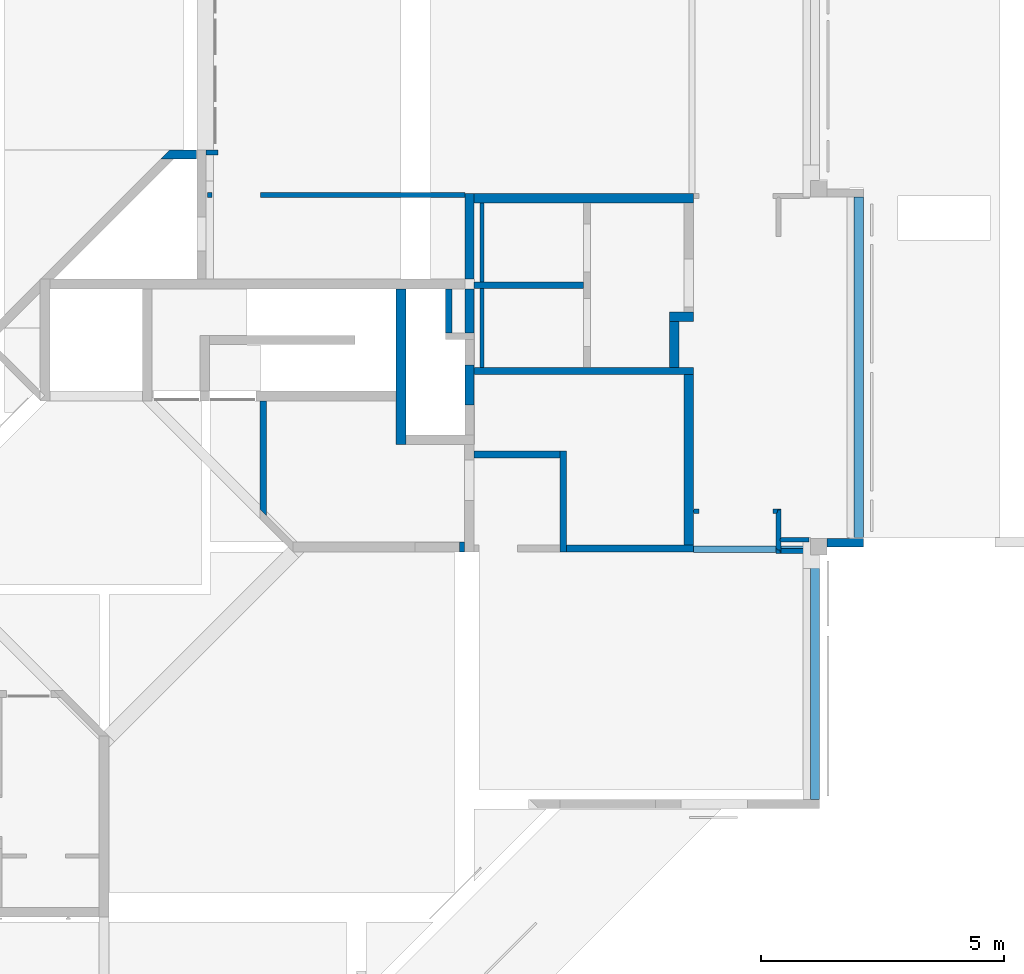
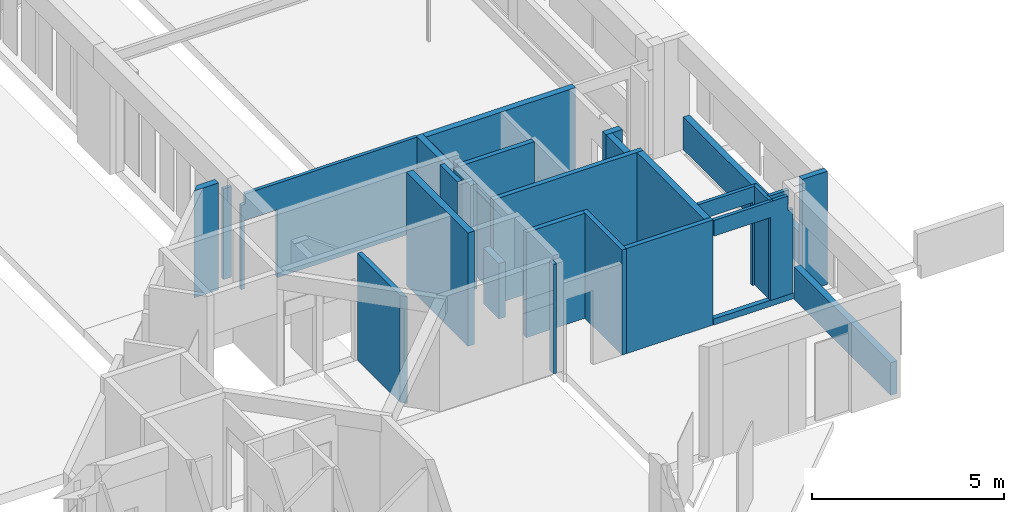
# One storey, part 17 of 30: 29 walls.
"""IFC4X3_ADD2 building model written with IfcOpenShell, lengths in millimetres."""

from ifc_helpers import new_model, si_unit, direction, frame, frame_2d, origin_with_axes, origin_2d_with_axis, place, context, subcontext, project, spatial, polyline, rectangle, outline, extrude, source, transform, mapped, material, type_object, type_shapes, element, save


model = new_model("IFC4X3_ADD2")

# Units and contexts
model_context = context("Model", 3, precision=1e-05, world=origin_with_axes(), true_north=direction((0.0, 1.0)))
body_context = subcontext(model_context, "Body", "Model", "MODEL_VIEW")
ifc_project = project(units=[si_unit("LENGTHUNIT", "METRE", prefix="MILLI"), si_unit("AREAUNIT", "SQUARE_METRE"), si_unit("VOLUMEUNIT", "CUBIC_METRE"), si_unit("PLANEANGLEUNIT", "RADIAN"), si_unit("TIMEUNIT", "SECOND"), si_unit("MASSUNIT", "GRAM")], contexts=[model_context])

# Site, building, storey
site_placement = place(None, origin_with_axes())
site = spatial("IfcSite", under=ifc_project, at=site_placement, Name="Site", CompositionType="ELEMENT")
building_placement = place(site_placement, origin_with_axes())
building = spatial("IfcBuilding", under=site, at=building_placement, Name="IFC Building Story")
storey_placement = place(building_placement, origin_with_axes())
storey = spatial("IfcBuildingStorey", under=building, at=storey_placement, Name="000", Elevation=0.0)

# Walls
ifc_material_1 = material(Name="BB_Beton_Bestaand")
wall_type_1 = type_object("IfcWallType", Name="BB_Beton_Bestaand 200", PredefinedType="NOTDEFINED", material=ifc_material_1)
wall_1_placement = place(storey_placement, origin_with_axes())
element("IfcWall", 1, at=wall_1_placement, inside=storey, type_object=wall_type_1, Name="Basic Wall:BB_XX_Wand uit beton, 200 mm", ObjectType="Basic Wall:BB_XX_Wand uit beton, 200 mm", PredefinedType="SOLIDWALL", context=body_context, shape_type="SweptSolid", body=[
    extrude(rectangle(XDim=3199.999999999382, YDim=200.0, at=frame_2d((0.0, 0.0), x_axis=(0.0, 1.0))), frame((-8500.0, 18300.00000000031, -80.0), z_axis=(0.0, 0.0, 1.0), x_axis=(1.0, 0.0, 0.0)), (0.0, 0.0, 1.0), 3600.0),
])
wall_type_2 = type_object("IfcWallType", Name="BB_Beton_Bestaand 190", PredefinedType="NOTDEFINED", material=ifc_material_1)
wall_2_placement = place(storey_placement, origin_with_axes())
element("IfcWall", 2, at=wall_2_placement, inside=storey, type_object=wall_type_2, Name="Basic Wall:BB_XX_Wand uit beton, 190 mm", ObjectType="Basic Wall:BB_XX_Wand uit beton, 190 mm", PredefinedType="SOLIDWALL", context=body_context, shape_type="SweptSolid", body=[
    extrude(rectangle(XDim=6990.000000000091, YDim=190.0, at=frame_2d((0.0, 0.0), x_axis=(0.0, 1.0))), frame((900.0, 18289.99999999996, -200.0), z_axis=(0.0, 0.0, 1.0), x_axis=(1.0, 0.0, 0.0)), (0.0, 0.0, 1.0), 1040.0),
])
wall_3_placement = place(storey_placement, origin_with_axes())
element("IfcWall", 3, at=wall_3_placement, inside=storey, type_object=wall_type_2, Name="Basic Wall:BB_XX_Wand uit beton, 190 mm", ObjectType="Basic Wall:BB_XX_Wand uit beton, 190 mm", PredefinedType="SOLIDWALL", context=body_context, shape_type="SweptSolid", body=[
    extrude(rectangle(XDim=5040.00000000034, YDim=190.0, at=frame_2d((0.0, 0.0), x_axis=(0.0, 1.0))), frame((0.0, 11934.99999999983, -200.0), z_axis=(0.0, 0.0, 1.0), x_axis=(1.0, 0.0, 0.0)), (0.0, 0.0, 1.0), 1040.0),
])
wall_type_3 = type_object("IfcWallType", Name="BB_Beton_Bestaand 170", PredefinedType="NOTDEFINED", material=ifc_material_1)
wall_4_placement = place(storey_placement, origin_with_axes())
element("IfcWall", 4, at=wall_4_placement, inside=storey, type_object=wall_type_3, Name="Basic Wall:BB_XX_Wand uit beton, 170 mm", ObjectType="Basic Wall:BB_XX_Wand uit beton, 170 mm", PredefinedType="SOLIDWALL", context=body_context, shape_type="SweptSolid", body=[
    extrude(rectangle(XDim=749.999999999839, YDim=170.0, at=origin_2d_with_axis()), frame((620.0000000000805, 14690.0, -200.0), z_axis=(0.0, 0.0, 1.0), x_axis=(1.0, 0.0, 0.0)), (0.0, 0.0, 1.0), 3600.0),
])
ifc_material_2 = material(Name="BB_Metselwerk_Bestaand")
wall_type_4 = type_object("IfcWallType", Name="BB_Metselwerk_Bestaand 140", PredefinedType="NOTDEFINED", material=ifc_material_2)
wall_5_placement = place(storey_placement, origin_with_axes())
element("IfcWall", 5, at=wall_5_placement, inside=storey, type_object=wall_type_4, Name="Basic Wall:BB_XX_Wand uit metselwerk, 140 mm", ObjectType="Basic Wall:BB_XX_Wand uit metselwerk, 140 mm", PredefinedType="SOLIDWALL", context=body_context, shape_type="SweptSolid", body=[
    extrude(rectangle(XDim=899.9999999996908, YDim=140.0, at=frame_2d((0.0, 0.0), x_axis=(0.0, 1.0))), frame((-7520.0, 19449.99999999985, -200.0), z_axis=(0.0, 0.0, 1.0), x_axis=(1.0, 0.0, 0.0)), (0.0, 0.0, 1.0), 3600.0),
])
wall_6_placement = place(storey_placement, origin_with_axes())
element("IfcWall", 6, at=wall_6_placement, inside=storey, type_object=wall_type_4, Name="Basic Wall:BB_XX_Wand uit metselwerk, 140 mm", ObjectType="Basic Wall:BB_XX_Wand uit metselwerk, 140 mm", PredefinedType="SOLIDWALL", context=body_context, shape_type="SweptSolid", body=[
    extrude(outline(polyline([(70.00000000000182, 1144.00757595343), (70.00000000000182, -1214.00757595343), (-70.0, -1074.00757595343), (-70.0, 1144.00757595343), (70.00000000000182, 1144.00757595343)])), frame((-11330.0, 16455.99242404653, -80.0), z_axis=(0.0, 0.0, 1.0), x_axis=(1.0, 0.0, 0.0)), (0.0, 0.0, 1.0), 3400.0),
])
wall_7_placement = place(storey_placement, origin_with_axes())
element("IfcWall", 7, at=wall_7_placement, inside=storey, type_object=wall_type_4, Name="Basic Wall:BB_XX_Wand uit metselwerk, 140 mm", ObjectType="Basic Wall:BB_XX_Wand uit metselwerk, 140 mm", PredefinedType="SOLIDWALL", context=body_context, shape_type="SweptSolid", body=[
    extrude(rectangle(XDim=2070.000000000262, YDim=140.0, at=frame_2d((0.0, 0.0), x_axis=(0.0, 1.0))), frame((-5170.0, 15535.00000000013, -200.0), z_axis=(0.0, 0.0, 1.0), x_axis=(1.0, 0.0, 0.0)), (0.0, 0.0, 1.0), 3340.0),
])
wall_8_placement = place(storey_placement, origin_with_axes())
element("IfcWall", 8, at=wall_8_placement, inside=storey, type_object=wall_type_4, Name="Basic Wall:BB_XX_Wand uit metselwerk, 140 mm", ObjectType="Basic Wall:BB_XX_Wand uit metselwerk, 140 mm", PredefinedType="SOLIDWALL", context=body_context, shape_type="SweptSolid", body=[
    extrude(rectangle(XDim=2604.99999999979, YDim=139.9999999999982, at=origin_2d_with_axis()), frame((-3797.499999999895, 14570.0, -200.0), z_axis=(0.0, 0.0, 1.0), x_axis=(1.0, 0.0, 0.0)), (0.0, 0.0, 1.0), 3340.0),
])
ifc_material_3 = material(Name="BB_Metselwerk_Betonsteen")
wall_type_5 = type_object("IfcWallType", Name="BB_Metselwerk_Betonsteen 190", PredefinedType="NOTDEFINED", material=ifc_material_3)
wall_9_placement = place(storey_placement, origin_with_axes())
element("IfcWall", 9, at=wall_9_placement, inside=storey, type_object=wall_type_5, Name="Basic Wall:BB_03.09.24#04_Wand uit metselwerk_vol, 190 mm", ObjectType="Basic Wall:BB_03.09.24#04_Wand uit metselwerk_vol, 190 mm", PredefinedType="SOLIDWALL", context=body_context, shape_type="SweptSolid", body=[
    extrude(rectangle(XDim=4505.03046328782, YDim=190.0, at=origin_2d_with_axis()), frame((-4747.51523164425, 21760.0, -200.0), z_axis=(0.0, 0.0, 1.0), x_axis=(1.0, 0.0, 0.0)), (0.0, 0.0, 1.0), 3200.0),
])
wall_10_placement = place(storey_placement, origin_with_axes())
element("IfcWall", 10, at=wall_10_placement, inside=storey, type_object=wall_type_5, Name="Basic Wall:BB_03.09.24#05_Wand uit metselwerk_EI60, 190 mm", ObjectType="Basic Wall:BB_03.09.24#05_Wand uit metselwerk_EI60, 190 mm", PredefinedType="SOLIDWALL", context=body_context, shape_type="SweptSolid", body=[
    extrude(rectangle(XDim=820.0000000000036, YDim=190.0, at=frame_2d((0.0, 0.0), x_axis=(0.0, 1.0))), frame((-7095.03046328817, 17929.7208049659, -200.0), z_axis=(0.0, 0.0, 1.0), x_axis=(1.0, 0.0, 0.0)), (0.0, 0.0, 1.0), 1760.0),
])
wall_11_placement = place(storey_placement, origin_with_axes())
element("IfcWall", 11, at=wall_11_placement, inside=storey, type_object=wall_type_5, Name="Basic Wall:BB_03.09.24#04_Wand uit metselwerk_vol, 190 mm", ObjectType="Basic Wall:BB_03.09.24#04_Wand uit metselwerk_vol, 190 mm", PredefinedType="SOLIDWALL", context=body_context, shape_type="SweptSolid", body=[
    extrude(rectangle(XDim=1755.000000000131, YDim=190.0, at=frame_2d((0.0, 0.0), x_axis=(0.0, 1.0))), frame((-7095.03046328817, 20977.50000000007, -200.0), z_axis=(0.0, 0.0, 1.0), x_axis=(1.0, 0.0, 0.0)), (0.0, 0.0, 1.0), 3200.0),
])
wall_12_placement = place(storey_placement, origin_with_axes())
element("IfcWall", 12, at=wall_12_placement, inside=storey, type_object=wall_type_5, Name="Basic Wall:BB_03.09.24#03_Wand uit metselwerk, 190 mm", ObjectType="Basic Wall:BB_03.09.24#03_Wand uit metselwerk, 190 mm", PredefinedType="SOLIDWALL", context=body_context, shape_type="SweptSolid", body=[
    extrude(rectangle(XDim=899.7208049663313, YDim=190.0, at=frame_2d((0.0, 0.0), x_axis=(0.0, 1.0))), frame((-7095.03046328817, 19449.86040248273, -200.0), z_axis=(0.0, 0.0, 1.0), x_axis=(1.0, 0.0, 0.0)), (0.0, 0.0, 1.0), 3340.0),
])
wall_13_placement = place(storey_placement, origin_with_axes())
element("IfcWall", 13, at=wall_13_placement, inside=storey, type_object=wall_type_5, Name="Basic Wall:BB_03.09.24#05_Wand uit metselwerk_EI60, 190 mm", ObjectType="Basic Wall:BB_03.09.24#05_Wand uit metselwerk_EI60, 190 mm", PredefinedType="SOLIDWALL", context=body_context, shape_type="SweptSolid", body=[
    extrude(rectangle(XDim=949.9999999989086, YDim=190.0, at=frame_2d((0.0, 0.0), x_axis=(0.0, 1.0))), frame((-2890.0, 18759.99999999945, -200.0), z_axis=(0.0, 0.0, 1.0), x_axis=(1.0, 0.0, 0.0)), (0.0, 0.0, 1.0), 3340.0),
])
wall_14_placement = place(storey_placement, origin_with_axes())
element("IfcWall", 14, at=wall_14_placement, inside=storey, type_object=wall_type_5, Name="Basic Wall:BB_03.09.24#05_Wand uit metselwerk_EI60, 190 mm", ObjectType="Basic Wall:BB_03.09.24#05_Wand uit metselwerk_EI60, 190 mm", PredefinedType="SOLIDWALL", context=body_context, shape_type="SweptSolid", body=[
    extrude(rectangle(XDim=490.0, YDim=190.0, at=origin_2d_with_axis()), frame((-2740.0, 19330.0, -200.0), z_axis=(0.0, 0.0, 1.0), x_axis=(1.0, 0.0, 0.0)), (0.0, 0.0, 1.0), 3340.0),
])
wall_15_placement = place(storey_placement, origin_with_axes())
element("IfcWall", 15, at=wall_15_placement, inside=storey, type_object=wall_type_5, Name="Basic Wall:BB_03.09.24#05_Wand uit metselwerk_EI60, 190 mm", ObjectType="Basic Wall:BB_03.09.24#05_Wand uit metselwerk_EI60, 190 mm", PredefinedType="SOLIDWALL", context=body_context, shape_type="SweptSolid", body=[
    extrude(rectangle(XDim=3505.000000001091, YDim=190.0, at=frame_2d((0.0, 0.0), x_axis=(0.0, 1.0))), frame((-2590.0, 16392.49999999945, -200.0), z_axis=(0.0, 0.0, 1.0), x_axis=(1.0, 0.0, 0.0)), (0.0, 0.0, 1.0), 3340.0),
])
wall_16_placement = place(storey_placement, origin_with_axes())
element("IfcWall", 16, at=wall_16_placement, inside=storey, type_object=wall_type_5, Name="Basic Wall:BB_03.09.24#03_Wand uit metselwerk, 190 mm", ObjectType="Basic Wall:BB_03.09.24#03_Wand uit metselwerk, 190 mm", PredefinedType="SOLIDWALL", context=body_context, shape_type="SweptSolid", body=[
    extrude(outline(polyline([(-225.2361964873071, 95.0), (320.2361964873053, 95.0), (320.2361964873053, -95.0), (-415.2361964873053, -95.0), (-225.2361964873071, 95.0)])), frame((-13024.41214099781, 22660.0, -400.0), z_axis=(0.0, 0.0, 1.0), x_axis=(1.0, 0.0, 0.0)), (0.0, 0.0, 1.0), 3399.99999997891),
])
wall_type_6 = type_object("IfcWallType", Name="Basic Wall_BB_10.01.41#03_Gipskartonwand_43dB_MS100 _ 25.50.25_ 100 mm15", PredefinedType="NOTDEFINED")
shared_shape_1 = source(origin_with_axes(), body_context, "Body", "SweptSolid", [
    extrude(rectangle(XDim=240.000000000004, YDim=12.49999999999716, at=origin_2d_with_axis()), frame((119.999999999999, -43.7499999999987, 0.0), z_axis=(0.0, 0.0, 1.0), x_axis=(1.0, 0.0, 0.0)), (0.0, 0.0, 1.0), 2880.0),
    extrude(rectangle(XDim=240.000000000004, YDim=12.50000000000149, at=origin_2d_with_axis()), frame((120.0, -31.24999999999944, 0.0), z_axis=(0.0, 0.0, 1.0), x_axis=(1.0, 0.0, 0.0)), (0.0, 0.0, 1.0), 2880.0),
    extrude(rectangle(XDim=240.000000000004, YDim=49.9999999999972, at=origin_2d_with_axis()), frame((119.999999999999, 0.0, 0.0), z_axis=(0.0, 0.0, 1.0), x_axis=(1.0, 0.0, 0.0)), (0.0, 0.0, 1.0), 2880.0),
    extrude(rectangle(XDim=240.000000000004, YDim=12.50000000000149, at=origin_2d_with_axis()), frame((120.0, 31.24999999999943, 0.0), z_axis=(0.0, 0.0, 1.0), x_axis=(1.0, 0.0, 0.0)), (0.0, 0.0, 1.0), 2880.0),
    extrude(rectangle(XDim=240.000000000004, YDim=12.50000000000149, at=origin_2d_with_axis()), frame((120.0, 43.75000000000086, 0.0), z_axis=(0.0, 0.0, 1.0), x_axis=(1.0, 0.0, 0.0)), (0.0, 0.0, 1.0), 2880.0),
])
type_shapes(wall_type_6, [shared_shape_1])
wall_17_placement = place(storey_placement, frame((-12265.0040658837, 22705.0, -200.0), z_axis=(0.0, 0.0, 1.0), x_axis=(-1.0, 0.0, 0.0)))
element("IfcWall", 17, at=wall_17_placement, inside=storey, type_object=wall_type_6, Name="Basic Wall:BB_10.01.41#03_Gipskartonwand_43dB_MS100 / 25.50.25, 100 mm", ObjectType="Basic Wall:BB_10.01.41#03_Gipskartonwand_43dB_MS100 / 25.50.25, 100 mm", PredefinedType="PARTITIONING", context=body_context, shape_type="MappedRepresentation", body=[
    mapped(shared_shape_1, transform((0.0, 0.0, 0.0))),
])
wall_type_7 = type_object("IfcWallType", Name="Basic Wall_BB_10.01.41#01_Gipskartonwand_MS100 _ 25.50.25_ 100 mm11", PredefinedType="NOTDEFINED")
shared_shape_2 = source(origin_with_axes(), body_context, "Body", "SweptSolid", [
    extrude(outline(polyline([(-1195.991467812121, -1112.0), (-1320.995533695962, -1112.0), (-1320.995533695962, 1568.0), (-1220.995533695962, 1568.0), (-1220.995533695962, -592.0000000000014), (-230.9955336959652, -592.0000000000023), (-230.9955336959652, 1568.0), (3968.978068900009, 1568.0), (3968.978068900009, -1432.0), (-1195.991467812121, -1432.0), (-1195.991467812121, -1112.0)])), frame((1320.995533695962, 37.50000000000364, 1568.0), z_axis=(0.0, 1.0, 0.0), x_axis=(1.0, 0.0, 0.0)), (0.0, 0.0, 1.0), 12.5),
    extrude(outline(polyline([(-1195.991467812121, -1112.0), (-1320.995533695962, -1112.0), (-1320.995533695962, 1568.0), (-1220.995533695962, 1568.0), (-1220.995533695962, -592.0000000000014), (-230.9955336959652, -592.0000000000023), (-230.9955336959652, 1568.0), (3968.978068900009, 1568.0), (3968.978068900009, -1432.0), (-1195.991467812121, -1432.0), (-1195.991467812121, -1112.0)])), frame((1320.995533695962, 25.0, 1568.0), z_axis=(0.0, 1.0, 0.0), x_axis=(1.0, 0.0, 0.0)), (0.0, 0.0, 1.0), 12.5),
    extrude(outline(polyline([(-1195.991467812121, -1112.0), (-1320.995533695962, -1112.0), (-1320.995533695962, 1568.0), (-1220.995533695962, 1568.0), (-1220.995533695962, -592.0000000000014), (-230.9955336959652, -592.0000000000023), (-230.9955336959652, 1568.0), (3968.978068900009, 1568.0), (3968.978068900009, -1432.0), (-1195.991467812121, -1432.0), (-1195.991467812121, -1112.0)])), frame((1320.995533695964, -25.0, 1568.0), z_axis=(0.0, 1.0, 0.0), x_axis=(1.0, 0.0, 0.0)), (0.0, 0.0, 1.0), 49.99999999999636),
    extrude(outline(polyline([(-1195.991467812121, -1112.0), (-1320.995533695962, -1112.0), (-1320.995533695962, 1568.0), (-1220.995533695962, 1568.0), (-1220.995533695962, -592.0000000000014), (-230.9955336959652, -592.0000000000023), (-230.9955336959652, 1568.0), (3968.978068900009, 1568.0), (3968.978068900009, -1432.0), (-1195.991467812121, -1432.0), (-1195.991467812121, -1112.0)])), frame((1320.995533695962, -37.49999999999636, 1568.0), z_axis=(0.0, 1.0, 0.0), x_axis=(1.0, 0.0, 0.0)), (0.0, 0.0, 1.0), 12.5),
    extrude(outline(polyline([(3968.978068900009, -1432.0), (-1195.991467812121, -1432.0), (-1195.991467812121, -1112.0), (-1320.995533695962, -1112.0), (-1320.995533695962, 1568.0), (-1220.995533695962, 1568.0), (-1220.995533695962, -592.0000000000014), (-230.9955336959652, -592.0000000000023), (-230.9955336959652, 1568.0), (3968.978068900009, 1568.0), (3968.978068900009, -1432.0)])), frame((1320.995533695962, -50.0, 1568.0), z_axis=(0.0, 1.0, 0.0), x_axis=(1.0, 0.0, 0.0)), (0.0, 0.0, 1.0), 12.49999999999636),
])
type_shapes(wall_type_7, [shared_shape_2])
wall_18_placement = place(storey_placement, frame((-12480.0040658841, 21830.0, 0.0), z_axis=(0.0, 0.0, 1.0), x_axis=(1.0, 0.0, 0.0)))
element("IfcWall", 18, at=wall_18_placement, inside=storey, type_object=wall_type_7, Name="Basic Wall:BB_10.01.41#01_Gipskartonwand_MS100 / 25.50.25, 100 mm", ObjectType="Basic Wall:BB_10.01.41#01_Gipskartonwand_MS100 / 25.50.25, 100 mm", PredefinedType="PARTITIONING", context=body_context, shape_type="MappedRepresentation", body=[
    mapped(shared_shape_2, transform((0.0, 0.0, 0.0))),
])
wall_type_8 = type_object("IfcWallType", Name="Basic Wall_BB_10.01.41#21_Gipskartonwand_EI60_43dB_MS100 _ 25.50.25_ 100 mm5", PredefinedType="NOTDEFINED")
shared_shape_3 = source(origin_with_axes(), body_context, "Body", "SweptSolid", [
    extrude(outline(polyline([(123.1250000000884, -525.0), (123.1250000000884, 2115.0), (800.6250000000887, 2115.0), (800.6250000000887, -564.9999999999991), (650.6250000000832, -564.9999999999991), (650.6250000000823, -1025.0), (-1574.375000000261, -1025.0), (-1574.375000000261, -525.0), (123.1250000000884, -525.0)])), frame((1574.375000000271, 37.5, 2115.0), z_axis=(0.0, 1.0, 0.0), x_axis=(1.0, 0.0, 0.0)), (0.0, 0.0, 1.0), 12.5),
    extrude(outline(polyline([(123.1250000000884, -525.0), (123.1250000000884, 2115.0), (800.6250000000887, 2115.0), (800.6250000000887, -564.9999999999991), (650.6250000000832, -564.9999999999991), (650.6250000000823, -1025.0), (-1574.375000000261, -1025.0), (-1574.375000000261, -525.0), (123.1250000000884, -525.0)])), frame((1574.37500000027, 25.0, 2115.0), z_axis=(0.0, 1.0, 0.0), x_axis=(1.0, 0.0, 0.0)), (0.0, 0.0, 1.0), 12.5),
    extrude(outline(polyline([(123.1250000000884, -525.0), (123.1250000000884, 2115.0), (800.6250000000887, 2115.0), (800.6250000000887, -564.9999999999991), (650.6250000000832, -564.9999999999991), (650.6250000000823, -1025.0), (-1574.375000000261, -1025.0), (-1574.375000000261, -525.0), (123.1250000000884, -525.0)])), frame((1574.375000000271, -25.0, 2115.0), z_axis=(0.0, 1.0, 0.0), x_axis=(1.0, 0.0, 0.0)), (0.0, 0.0, 1.0), 50.00000000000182),
    extrude(outline(polyline([(123.1250000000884, -525.0), (123.1250000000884, 2115.0), (800.6250000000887, 2115.0), (800.6250000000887, -564.9999999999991), (650.6250000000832, -564.9999999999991), (650.6250000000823, -1025.0), (-1574.375000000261, -1025.0), (-1574.375000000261, -525.0), (123.1250000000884, -525.0)])), frame((1574.375000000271, -37.5, 2115.0), z_axis=(0.0, 1.0, 0.0), x_axis=(1.0, 0.0, 0.0)), (0.0, 0.0, 1.0), 12.5),
    extrude(outline(polyline([(123.1250000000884, -525.0), (123.1250000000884, 2115.0), (800.6250000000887, 2115.0), (800.6250000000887, -564.9999999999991), (650.6250000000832, -564.9999999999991), (650.6250000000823, -1025.0), (-1574.375000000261, -1025.0), (-1574.375000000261, -525.0), (123.1250000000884, -525.0)])), frame((1574.375000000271, -50.0, 2115.0), z_axis=(0.0, 1.0, 0.0), x_axis=(1.0, 0.0, 0.0)), (0.0, 0.0, 1.0), 12.5),
])
type_shapes(wall_type_8, [shared_shape_3])
wall_19_placement = place(storey_placement, frame((-2495.0, 14515.0, 0.0), z_axis=(0.0, 0.0, 1.0), x_axis=(1.0, 0.0, 0.0)))
element("IfcWall", 19, at=wall_19_placement, inside=storey, type_object=wall_type_8, Name="Basic Wall:BB_10.01.41#21_Gipskartonwand_EI60_43dB_MS100 / 25.50.25, 100 mm", ObjectType="Basic Wall:BB_10.01.41#21_Gipskartonwand_EI60_43dB_MS100 / 25.50.25, 100 mm", PredefinedType="PARTITIONING", context=body_context, shape_type="MappedRepresentation", body=[
    mapped(shared_shape_3, transform((0.0, 0.0, 0.0))),
])
wall_type_9 = type_object("IfcWallType", Name="Basic Wall_BB_10.01.41#21_Gipskartonwand_EI60_43dB_MS100 _ 25.50.25_ 100 mm7", PredefinedType="NOTDEFINED")
shared_shape_4 = source(origin_with_axes(), body_context, "Body", "SweptSolid", [
    extrude(rectangle(XDim=732.5000000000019, YDim=12.49999999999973, at=origin_2d_with_axis()), frame((366.249999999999, 43.75000000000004, 0.0), z_axis=(0.0, 0.0, 1.0), x_axis=(1.0, 0.0, 0.0)), (0.0, 0.0, 1.0), 3140.0),
    extrude(rectangle(XDim=757.5000000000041, YDim=12.49999999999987, at=origin_2d_with_axis()), frame((366.250000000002, 31.25000000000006, 0.0), z_axis=(0.0, 0.0, 1.0), x_axis=(1.0, 0.0, 0.0)), (0.0, 0.0, 1.0), 3140.0),
    extrude(rectangle(XDim=820.0000000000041, YDim=50.0, at=origin_2d_with_axis()), frame((385.0, 0.0, 0.0), z_axis=(0.0, 0.0, 1.0), x_axis=(1.0, 0.0, 0.0)), (0.0, 0.0, 1.0), 3140.0),
    extrude(rectangle(XDim=882.500000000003, YDim=12.50000000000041, at=origin_2d_with_axis()), frame((366.2500000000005, -31.25000000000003, 0.0), z_axis=(0.0, 0.0, 1.0), x_axis=(1.0, 0.0, 0.0)), (0.0, 0.0, 1.0), 3140.0),
    extrude(rectangle(XDim=907.5000000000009, YDim=12.49999999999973, at=origin_2d_with_axis()), frame((366.2500000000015, -43.75000000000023, 0.0), z_axis=(0.0, 0.0, 1.0), x_axis=(1.0, 0.0, 0.0)), (0.0, 0.0, 1.0), 3140.0),
])
type_shapes(wall_type_9, [shared_shape_4])
wall_20_placement = place(storey_placement, frame((-747.5, 14565.0, 0.0), z_axis=(0.0, 0.0, 1.0), x_axis=(0.0, 1.0, 0.0)))
element("IfcWall", 20, at=wall_20_placement, inside=storey, type_object=wall_type_9, Name="Basic Wall:BB_10.01.41#21_Gipskartonwand_EI60_43dB_MS100 / 25.50.25, 100 mm", ObjectType="Basic Wall:BB_10.01.41#21_Gipskartonwand_EI60_43dB_MS100 / 25.50.25, 100 mm", PredefinedType="PARTITIONING", context=body_context, shape_type="MappedRepresentation", body=[
    mapped(shared_shape_4, transform((0.0, 0.0, 0.0))),
])
wall_type_10 = type_object("IfcWallType", Name="Basic Wall_BB_10.01.41#21_Gipskartonwand_EI60_43dB_MS100 _ 25.50.25_ 100 mm9", PredefinedType="NOTDEFINED")
shared_shape_5 = source(origin_with_axes(), body_context, "Body", "SweptSolid", [
    extrude(outline(polyline([(-831.8750000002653, 1445.0), (-769.3749999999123, 1445.0), (-769.3749999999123, -1195.000000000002), (750.6250000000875, -1195.000000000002), (750.6250000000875, 1445.0), (850.6250000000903, 1445.0), (850.6250000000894, -1694.999999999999), (-831.8750000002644, -1694.999999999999), (-831.8750000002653, 1445.0)])), frame((831.8750000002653, 37.50000000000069, 1445.0), z_axis=(0.0, 1.0, 0.0), x_axis=(1.0, 0.0, 0.0)), (0.0, 0.0, 1.0), 12.49999999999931),
    extrude(outline(polyline([(-841.2500000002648, 1445.0), (-766.2499999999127, 1445.0), (-766.2499999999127, -1195.000000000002), (753.7500000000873, -1195.000000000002), (753.7500000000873, 1445.0), (853.7500000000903, 1445.0), (853.7500000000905, -1694.999999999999), (-841.2500000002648, -1694.999999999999), (-841.2500000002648, 1445.0)])), frame((828.7500000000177, 25.0, 1445.0), z_axis=(0.0, 1.0, 0.0), x_axis=(1.0, 0.0, 0.0)), (0.0, 0.0, 1.0), 12.49999999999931),
    extrude(outline(polyline([(-1025.000000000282, 1691.999999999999), (-937.4999999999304, 1691.999999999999), (-937.4999999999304, -948.0000000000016), (582.5000000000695, -948.0000000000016), (582.5000000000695, 1691.999999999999), (697.5000000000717, 1691.999999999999), (697.5000000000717, -987.9999999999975), (682.5000000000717, -987.9999999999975), (682.5000000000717, -1448.0), (-1025.000000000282, -1448.0), (-1025.000000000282, 1691.999999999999)])), frame((1000.000000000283, -25.0000000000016, 1691.999999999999), z_axis=(0.0, 1.0, 0.0), x_axis=(1.0, 0.0, 0.0)), (0.0, 0.0, 1.0), 50.00000000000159),
    extrude(outline(polyline([(-888.1250000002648, 1445.0), (-750.6249999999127, 1445.0), (-750.6249999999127, -1195.000000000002), (769.3750000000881, -1195.000000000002), (769.3750000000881, 1445.0), (869.3750000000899, 1445.0), (869.375000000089, -1694.999999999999), (-888.1250000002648, -1694.999999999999), (-888.1250000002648, 1445.0)])), frame((813.1250000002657, -37.49999999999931, 1445.0), z_axis=(0.0, 1.0, 0.0), x_axis=(1.0, 0.0, 0.0)), (0.0, 0.0, 1.0), 12.49999999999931),
    extrude(outline(polyline([(-897.5000000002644, 1445.0), (-747.4999999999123, 1445.0), (-747.4999999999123, -1195.000000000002), (772.5000000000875, -1195.000000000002), (772.5000000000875, 1445.0), (872.5000000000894, 1445.0), (872.5000000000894, -1694.999999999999), (-897.5000000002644, -1694.999999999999), (-897.5000000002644, 1445.0)])), frame((810.0000000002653, -49.9999999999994, 1445.0), z_axis=(0.0, 1.0, 0.0), x_axis=(1.0, 0.0, 0.0)), (0.0, 0.0, 1.0), 12.4999999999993),
])
type_shapes(wall_type_10, [shared_shape_5])
wall_21_placement = place(storey_placement, frame((-797.499999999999, 15335.0, 0.0), z_axis=(0.0, 0.0, 1.0), x_axis=(-1.0, 0.0, 0.0)))
element("IfcWall", 21, at=wall_21_placement, inside=storey, type_object=wall_type_10, Name="Basic Wall:BB_10.01.41#21_Gipskartonwand_EI60_43dB_MS100 / 25.50.25, 100 mm", ObjectType="Basic Wall:BB_10.01.41#21_Gipskartonwand_EI60_43dB_MS100 / 25.50.25, 100 mm", PredefinedType="PARTITIONING", context=body_context, shape_type="MappedRepresentation", body=[
    mapped(shared_shape_5, transform((0.0, 0.0, 0.0))),
])
wall_type_11 = type_object("IfcWallType", Name="Basic Wall_BB_10.01.41#21_Gipskartonwand_EI60_43dB_MS100 _ 25.50.25_ 100 mm13", PredefinedType="NOTDEFINED")
shared_shape_6 = source(origin_with_axes(), body_context, "Body", "SweptSolid", [
    extrude(outline(polyline([(-188.333333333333, -739.9999999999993), (-188.333333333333, 1939.999999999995), (389.1666666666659, 1939.999999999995), (389.1666666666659, -1199.999999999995), (-200.833333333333, -1199.999999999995), (-200.833333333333, -739.9999999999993), (-188.333333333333, -739.9999999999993)])), frame((200.833333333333, 37.4999999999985, 1939.999999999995), z_axis=(0.0, 1.0, 0.0), x_axis=(1.0, 0.0, 0.0)), (0.0, 0.0, 1.0), 12.5000000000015),
    extrude(outline(polyline([(-192.5, -739.9999999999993), (-192.5, 1939.999999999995), (397.5, 1939.999999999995), (397.5, -1199.999999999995), (-205.0, -1199.999999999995), (-205.0, -739.9999999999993), (-192.5, -739.9999999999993)])), frame((205.0, 25.000000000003, 1939.999999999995), z_axis=(0.0, 1.0, 0.0), x_axis=(1.0, 0.0, 0.0)), (0.0, 0.0, 1.0), 12.4999999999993),
    extrude(outline(polyline([(-196.6666666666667, -739.9999999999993), (-196.6666666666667, 1939.999999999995), (405.8333333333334, 1939.999999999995), (405.8333333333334, -1199.999999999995), (-209.1666666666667, -1199.999999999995), (-209.1666666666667, -739.9999999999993), (-196.6666666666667, -739.9999999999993)])), frame((209.1666666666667, -25.0000000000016, 1939.999999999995), z_axis=(0.0, 1.0, 0.0), x_axis=(1.0, 0.0, 0.0)), (0.0, 0.0, 1.0), 50.00000000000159),
    extrude(outline(polyline([(-188.333333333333, -739.9999999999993), (-188.333333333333, 1939.999999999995), (389.1666666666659, 1939.999999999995), (389.1666666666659, -1199.999999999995), (-200.833333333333, -1199.999999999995), (-200.833333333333, -739.9999999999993), (-188.333333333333, -739.9999999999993)])), frame((200.8333333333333, -37.49999999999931, 1939.999999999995), z_axis=(0.0, 1.0, 0.0), x_axis=(1.0, 0.0, 0.0)), (0.0, 0.0, 1.0), 12.49999999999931),
    extrude(outline(polyline([(-188.333333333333, -739.9999999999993), (-188.333333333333, 1939.999999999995), (389.1666666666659, 1939.999999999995), (389.1666666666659, -1199.999999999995), (-200.833333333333, -1199.999999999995), (-200.833333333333, -739.9999999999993), (-188.333333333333, -739.9999999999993)])), frame((200.8333333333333, -49.9999999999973, 1939.999999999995), z_axis=(0.0, 1.0, 0.0), x_axis=(1.0, 0.0, 0.0)), (0.0, 0.0, 1.0), 12.4999999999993),
])
type_shapes(wall_type_11, [shared_shape_6])
wall_22_placement = place(storey_placement, frame((-107.5, 14750.0, 0.0), z_axis=(0.0, 0.0, 1.0), x_axis=(-1.0, 0.0, 0.0)))
element("IfcWall", 22, at=wall_22_placement, inside=storey, type_object=wall_type_11, Name="Basic Wall:BB_10.01.41#21_Gipskartonwand_EI60_43dB_MS100 / 25.50.25, 100 mm", ObjectType="Basic Wall:BB_10.01.41#21_Gipskartonwand_EI60_43dB_MS100 / 25.50.25, 100 mm", PredefinedType="PARTITIONING", context=body_context, shape_type="MappedRepresentation", body=[
    mapped(shared_shape_6, transform((0.0, 0.0, 0.0))),
])
wall_type_12 = type_object("IfcWallType", Name="Basic Wall_BB_10.01.62#02_Voorzetwand gipskarton_ sanitair_MS75 _ 50.25_ 75 mm9", PredefinedType="NOTDEFINED")
shared_shape_7 = source(origin_with_axes(), body_context, "Body", "SweptSolid", [
    extrude(rectangle(XDim=1620.000000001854, YDim=12.50000000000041, at=origin_2d_with_axis()), frame((809.999999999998, 31.25000000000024, 0.0), z_axis=(0.0, 0.0, 1.0), x_axis=(1.0, 0.0, 0.0)), (0.0, 0.0, 1.0), 2750.0),
    extrude(rectangle(XDim=1620.000000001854, YDim=12.49999999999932, at=origin_2d_with_axis()), frame((809.999999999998, 18.7500000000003, 0.0), z_axis=(0.0, 0.0, 1.0), x_axis=(1.0, 0.0, 0.0)), (0.0, 0.0, 1.0), 2750.0),
    extrude(rectangle(XDim=1620.000000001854, YDim=50.0, at=origin_2d_with_axis()), frame((809.999999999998, -12.49999999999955, 0.0), z_axis=(0.0, 0.0, 1.0), x_axis=(1.0, 0.0, 0.0)), (0.0, 0.0, 1.0), 2750.0),
])
type_shapes(wall_type_12, [shared_shape_7])
wall_23_placement = place(storey_placement, frame((-6837.53046328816, 21665.0, -10.0), z_axis=(0.0, 0.0, 1.0), x_axis=(0.0, -1.0, 0.0)))
element("IfcWall", 23, at=wall_23_placement, inside=storey, type_object=wall_type_12, Name="Basic Wall:BB_10.01.62#02_Voorzetwand gipskarton, sanitair_MS75 / 50.25, 75 mm", ObjectType="Basic Wall:BB_10.01.62#02_Voorzetwand gipskarton, sanitair_MS75 / 50.25, 75 mm", PredefinedType="PARTITIONING", context=body_context, shape_type="MappedRepresentation", body=[
    mapped(shared_shape_7, transform((0.0, 0.0, 0.0))),
])
wall_type_13 = type_object("IfcWallType", Name="Basic Wall_BB_10.01.62#02_Voorzetwand gipskarton_ sanitair_MS75 _ 50.25_ 75 mm11", PredefinedType="NOTDEFINED")
shared_shape_8 = source(origin_with_axes(), body_context, "Body", "SweptSolid", [
    extrude(rectangle(XDim=1620.000000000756, YDim=12.50000000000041, at=origin_2d_with_axis()), frame((809.999999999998, 31.25000000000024, 0.0), z_axis=(0.0, 0.0, 1.0), x_axis=(1.0, 0.0, 0.0)), (0.0, 0.0, 1.0), 2750.0),
    extrude(rectangle(XDim=1620.000000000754, YDim=12.49999999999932, at=origin_2d_with_axis()), frame((809.999999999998, 18.7500000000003, 0.0), z_axis=(0.0, 0.0, 1.0), x_axis=(1.0, 0.0, 0.0)), (0.0, 0.0, 1.0), 2750.0),
    extrude(rectangle(XDim=1620.000000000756, YDim=50.0, at=origin_2d_with_axis()), frame((809.999999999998, -12.49999999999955, 0.0), z_axis=(0.0, 0.0, 1.0), x_axis=(1.0, 0.0, 0.0)), (0.0, 0.0, 1.0), 2750.0),
])
type_shapes(wall_type_13, [shared_shape_8])
wall_24_placement = place(storey_placement, frame((-6837.53046328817, 19905.0, -10.0), z_axis=(0.0, 0.0, 1.0), x_axis=(0.0, -1.0, 0.0)))
element("IfcWall", 24, at=wall_24_placement, inside=storey, type_object=wall_type_13, Name="Basic Wall:BB_10.01.62#02_Voorzetwand gipskarton, sanitair_MS75 / 50.25, 75 mm", ObjectType="Basic Wall:BB_10.01.62#02_Voorzetwand gipskarton, sanitair_MS75 / 50.25, 75 mm", PredefinedType="PARTITIONING", context=body_context, shape_type="MappedRepresentation", body=[
    mapped(shared_shape_8, transform((0.0, 0.0, 0.0))),
])
wall_type_14 = type_object("IfcWallType", Name="BB_Metselwerk_Betonsteen 140", PredefinedType="NOTDEFINED", material=ifc_material_3)
wall_25_placement = place(storey_placement, origin_with_axes())
element("IfcWall", 25, at=wall_25_placement, inside=storey, type_object=wall_type_14, Name="Basic Wall:BB_03.09.24#01_Wand uit metselwerk, 140 mm", ObjectType="Basic Wall:BB_03.09.24#01_Wand uit metselwerk, 140 mm", PredefinedType="SOLIDWALL", context=body_context, shape_type="SweptSolid", body=[
    extrude(rectangle(XDim=4505.03046328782, YDim=140.0, at=origin_2d_with_axis()), frame((-4747.51523164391, 18215.0, -200.0), z_axis=(0.0, 0.0, 1.0), x_axis=(1.0, 0.0, 0.0)), (0.0, 0.0, 1.0), 3340.0),
])
wall_26_placement = place(storey_placement, origin_with_axes())
element("IfcWall", 26, at=wall_26_placement, inside=storey, type_object=wall_type_14, Name="Basic Wall:BB_03.09.24#01_Wand uit metselwerk, 140 mm", ObjectType="Basic Wall:BB_03.09.24#01_Wand uit metselwerk, 140 mm", PredefinedType="SOLIDWALL", context=body_context, shape_type="SweptSolid", body=[
    extrude(rectangle(XDim=2250.03046328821, YDim=140.0000000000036, at=origin_2d_with_axis()), frame((-5875.015231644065, 19975.0, -200.0), z_axis=(0.0, 0.0, 1.0), x_axis=(1.0, 0.0, 0.0)), (0.0, 0.0, 1.0), 3340.0),
])
wall_27_placement = place(storey_placement, origin_with_axes())
element("IfcWall", 27, at=wall_27_placement, inside=storey, type_object=wall_type_14, Name="Basic Wall:BB_03.09.24#02_Wand uit metselwerk_EI60_43dB, 140 mm", ObjectType="Basic Wall:BB_03.09.24#02_Wand uit metselwerk_EI60_43dB, 140 mm", PredefinedType="SOLIDWALL", context=body_context, shape_type="SweptSolid", body=[
    extrude(rectangle(XDim=2400.00000000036, YDim=140.0, at=origin_2d_with_axis()), frame((-1295.00000000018, 14555.0, -200.0), z_axis=(0.0, 0.0, 1.0), x_axis=(1.0, 0.0, 0.0)), (0.0, 0.0, 1.0), 195.0),
])
wall_28_placement = place(storey_placement, origin_with_axes())
element("IfcWall", 28, at=wall_28_placement, inside=storey, type_object=wall_type_14, Name="Basic Wall:BB_03.09.24#02_Wand uit metselwerk_EI60_43dB, 140 mm", ObjectType="Basic Wall:BB_03.09.24#02_Wand uit metselwerk_EI60_43dB, 140 mm", PredefinedType="SOLIDWALL", context=body_context, shape_type="SweptSolid", body=[
    extrude(rectangle(XDim=1760.03046328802, YDim=140.0, at=origin_2d_with_axis()), frame((-6120.01523164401, 16500.0, -200.0), z_axis=(0.0, 0.0, 1.0), x_axis=(1.0, 0.0, 0.0)), (0.0, 0.0, 1.0), 3340.0),
])
wall_type_15 = type_object("IfcWallType", Name="BB_Beton_Bestaand 99.9695", PredefinedType="NOTDEFINED", material=ifc_material_1)
wall_29_placement = place(storey_placement, origin_with_axes())
element("IfcWall", 29, at=wall_29_placement, inside=storey, type_object=wall_type_15, Name="Basic Wall:BB_XX_Wand uit beton, 200 mm", ObjectType="Basic Wall:BB_XX_Wand uit beton, 200 mm", PredefinedType="SOLIDWALL", context=body_context, shape_type="SweptSolid", body=[
    extrude(rectangle(XDim=199.9999999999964, YDim=99.96953671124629, at=frame_2d((0.0, 0.0), x_axis=(0.0, 1.0))), frame((-7250.015231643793, 14600.0, -80.0), z_axis=(0.0, 0.0, 1.0), x_axis=(1.0, 0.0, 0.0)), (0.0, 0.0, 1.0), 3480.0),
])

save(model, "model.ifc")
